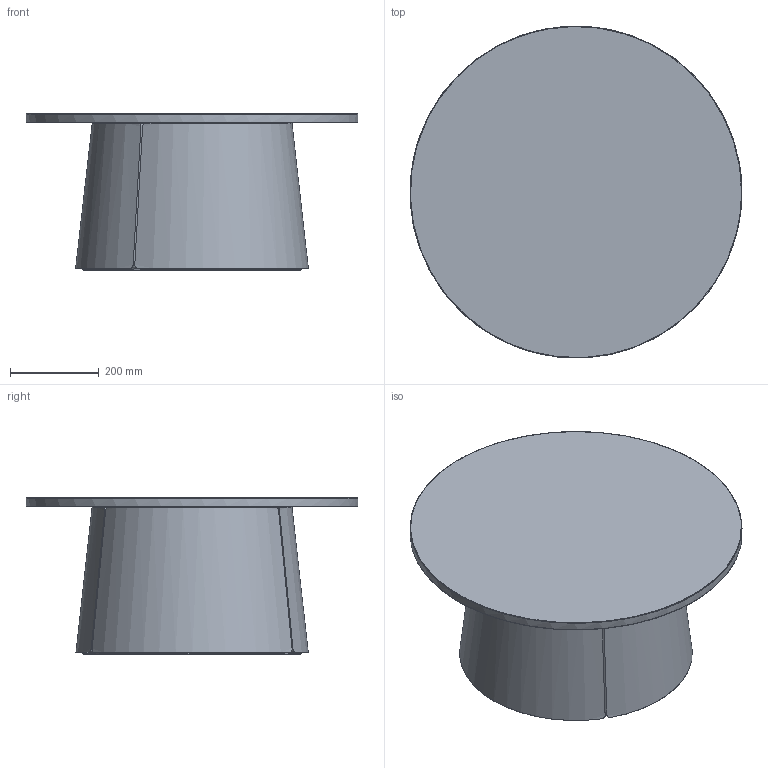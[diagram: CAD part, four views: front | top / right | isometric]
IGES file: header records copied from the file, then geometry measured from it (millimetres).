
Global section: file name: /Volumes/Team/Clients/Pulpo/2019 Bent Glass Table/_data export/20190222_BENT_side table_big.igs; preprocessor: Trout Lake IGES 012 Jan 28 2019; date: 190222.101721; units: millimetre
Bounding box: 749.85 x 749.62 x 354 mm (x, y, z)
Surface area: 2689720.7 mm2 (no closed solid volume)
Topology: 0 solids, 0 shells, 41 faces, 1088 edges, 1082 vertices
Faces by surface type: bspline 41
